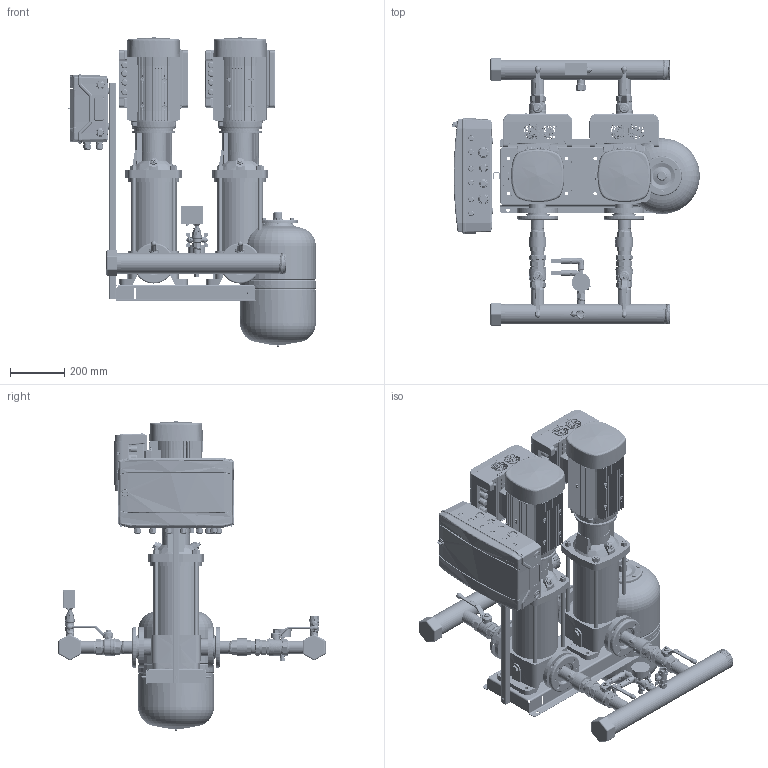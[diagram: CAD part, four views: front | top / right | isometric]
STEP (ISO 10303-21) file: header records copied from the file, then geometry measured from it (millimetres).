
FILE_DESCRIPTION(('CATIA V5 STEP Exchange','CAx-IF Rec.Pracs.--- Model Styling and Organization---1.4--- 2014-01-23','CAx-IF Rec.Pracs.---3D Tessellated Data Validation Properties---0.5---2014-09-14'),'2;1');
FILE_NAME('C:\Users\78432\YandexDisk\Drawings and 3D\3D Hydro Booster\Hydro-ME 3D\Hydro Models\Hydro ME 2 CRV10-xx\Hydro ME 2 CRVE10-9 (DIN).stp','2023-09-20T10:15:41+00:00',('none'),('none'),'CATIA Version 5-6 Release 2019 SP6','CATIA V5 STEP AP242 v1','none');
FILE_SCHEMA(('AP242_MANAGED_MODEL_BASED_3D_ENGINEERING_MIM_LF {1 0 10303 442 1 1 4}'));
Length unit declared in the file: millimetre
Products named in the file (49): Hydro ME 2 CRVE10-9 (DIN); 92051008; CRV10-9 Set (DIN); CRV 10-9_A_DIN_3kW; Base; Sleeve; Pumphead; Staybolt.1; Staybolt.2; Staybolt.3; Staybolt.4; Plug; AirVent; Motor; 00id2582; Adapter DN40-1,5" (96619634); 91040268; 91070086; 99110034; Hydraulica NY DN32 1,5 PN16; 92807557_9013-05; DN40_FM_LV_47.303.40; DN40_FF_LV_47.301; SAJ PDH30 4-7,5kW; 97941444; 405801; 405816; 91040267; 97941481; 00ID7527; Holder and CP 18mod; 92878909; Control ME (18mod); 2 sensors + manometer cpl.; manometr 16 bar; RPD-I-G1_2; 9021-01; 2070 1/2-1/2; _2020 1/2-1/2; 98594078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
Assembly tree (57 placements, depth 4):
  Hydro ME 2 CRVE10-9 (DIN)
    92051008
    CRV10-9 Set (DIN)  x2
      CRV 10-9_A_DIN_3kW
        Base
        Sleeve
        Pumphead
        Staybolt.1
        Staybolt.2
        Staybolt.3
        Staybolt.4
        Plug
        AirVent
        Motor
      00id2582
      Adapter DN40-1,5" (96619634)
        91040268
        91070086
        99110034
      Hydraulica NY DN32 1,5 PN16
      92807557_9013-05
      DN40_FM_LV_47.303.40
      DN40_FF_LV_47.301
      SAJ PDH30 4-7,5kW
    97941444  x2
      405801
      405816
      91040267
      97941481
    00ID7527  x2
    Holder and CP 18mod
      92878909
      Control ME (18mod)
    2 sensors + manometer cpl.
      manometr 16 bar
      RPD-I-G1_2  x2
      9021-01
      2070 1/2-1/2
      _2020 1/2-1/2
      98594078
    Tank 24L cpl.
      DN20_FF_BF_47.300.20
      9021-03
    Relay cpl.
      Relay RD-2R
      DN20_FF_BF_47.300.20
      2530 3/4-1/2
      _2530 1/2-1/4
    91078139
  WAV-24(D140 1'')
Bounding box: 916.82 x 989.22 x 1144.93 mm (x, y, z)
Volume: 78305246.9 mm3; surface area: 7685261.7 mm2
Topology: 192 solids, 424 shells, 27237 faces, 77512 edges, 51822 vertices
Faces by surface type: plane 11050, cylinder 6755, bspline 6516, cone 2089, torus 496, sphere 201, extrusion 130
Entity records: 725976 total; most frequent: CARTESIAN_POINT 365963, ORIENTED_EDGE 92521, EDGE_CURVE 46801, DIRECTION 42311, VERTEX_POINT 31229, VECTOR 19389, LINE 19324, B_SPLINE_CURVE_WITH_KNOTS 18588
